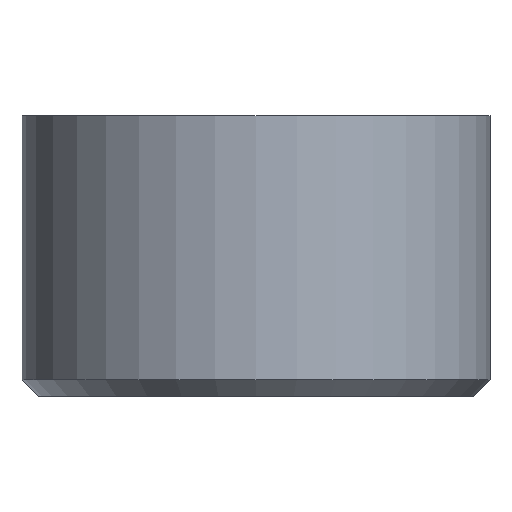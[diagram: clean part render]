
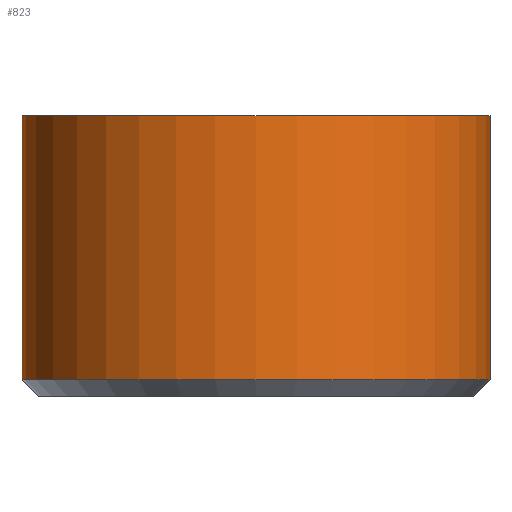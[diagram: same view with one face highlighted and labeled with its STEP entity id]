
A CAD part, front view. The second image highlights one B-rep face of the part: STEP entity #823.
In plain terms, the highlighted cylindrical face has radius 7.138 mm (diameter 14.275 mm), a partial arc.
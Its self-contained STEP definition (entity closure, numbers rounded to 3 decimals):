
#208=CARTESIAN_POINT('',(-7.138,-1.118,4.765));
#209=VERTEX_POINT('',#208);
#216=CARTESIAN_POINT('',(7.138,-1.118,4.765));
#217=VERTEX_POINT('',#216);
#218=CARTESIAN_POINT('',(0.0,-1.118,4.765));
#219=DIRECTION('',(0.0,0.0,-1.0));
#220=DIRECTION('',(1.0,0.0,0.0));
#221=AXIS2_PLACEMENT_3D('',#218,#219,#220);
#222=CIRCLE('',#221,7.138);
#223=EDGE_CURVE('',#217,#209,#222,.T.);
#676=CARTESIAN_POINT('',(-7.138,-1.118,-3.297));
#677=VERTEX_POINT('',#676);
#695=CARTESIAN_POINT('',(7.138,-1.118,-3.297));
#696=VERTEX_POINT('',#695);
#703=CARTESIAN_POINT('',(0.0,-1.118,-3.297));
#704=DIRECTION('',(0.0,0.0,-1.0));
#705=DIRECTION('',(1.0,0.0,0.0));
#706=AXIS2_PLACEMENT_3D('',#703,#704,#705);
#707=CIRCLE('',#706,7.138);
#708=EDGE_CURVE('',#696,#677,#707,.T.);
#796=CARTESIAN_POINT('',(-7.138,-1.118,-3.297));
#797=DIRECTION('',(0.0,0.0,1.0));
#798=VECTOR('',#797,8.062);
#799=LINE('',#796,#798);
#800=EDGE_CURVE('',#677,#209,#799,.T.);
#807=CARTESIAN_POINT('',(0.0,-1.118,-4.765));
#808=DIRECTION('',(0.0,0.0,1.0));
#809=DIRECTION('',(1.0,0.0,0.0));
#810=AXIS2_PLACEMENT_3D('',#807,#808,#809);
#811=CYLINDRICAL_SURFACE('',#810,7.138);
#812=ORIENTED_EDGE('',*,*,#708,.F.);
#813=CARTESIAN_POINT('',(7.138,-1.118,-3.297));
#814=DIRECTION('',(0.0,0.0,1.0));
#815=VECTOR('',#814,8.062);
#816=LINE('',#813,#815);
#817=EDGE_CURVE('',#696,#217,#816,.T.);
#818=ORIENTED_EDGE('',*,*,#817,.T.);
#819=ORIENTED_EDGE('',*,*,#223,.T.);
#820=ORIENTED_EDGE('',*,*,#800,.F.);
#821=EDGE_LOOP('',(#812,#818,#819,#820));
#822=FACE_OUTER_BOUND('',#821,.T.);
#823=ADVANCED_FACE('',(#822),#811,.T.);
